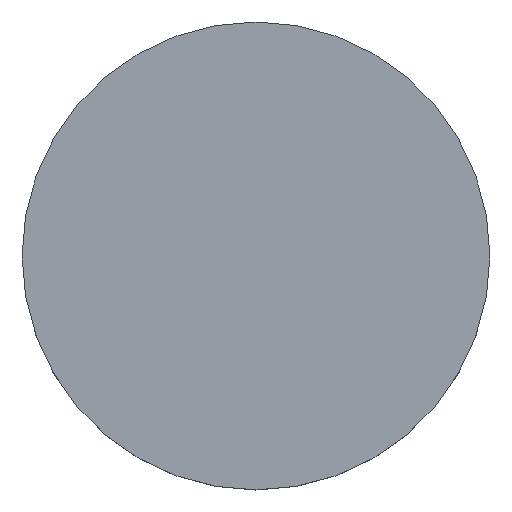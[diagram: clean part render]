
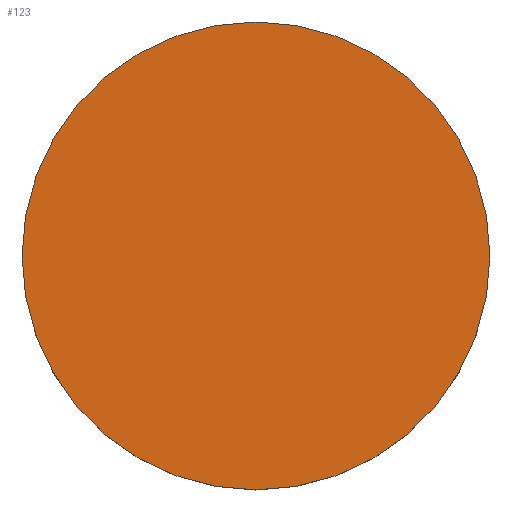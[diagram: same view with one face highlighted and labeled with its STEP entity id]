
A CAD part, top view. The second image highlights one B-rep face of the part: STEP entity #123.
In plain terms, the highlighted planar face has unit normal (0, 0, 1).
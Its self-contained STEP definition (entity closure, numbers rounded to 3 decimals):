
#39 = EDGE_CURVE('',#40,#40,#42,.T.);
#40 = VERTEX_POINT('',#41);
#41 = CARTESIAN_POINT('',(33.5,23.,0.6));
#42 = SURFACE_CURVE('',#43,(#48,#60),.PCURVE_S1.);
#43 = CIRCLE('',#44,4.5);
#44 = AXIS2_PLACEMENT_3D('',#45,#46,#47);
#45 = CARTESIAN_POINT('',(29.,23.,0.6));
#46 = DIRECTION('',(0.,0.,1.));
#47 = DIRECTION('',(1.,0.,-0.));
#48 = PCURVE('',#49,#54);
#49 = CYLINDRICAL_SURFACE('',#50,4.5);
#50 = AXIS2_PLACEMENT_3D('',#51,#52,#53);
#51 = CARTESIAN_POINT('',(29.,23.,-0.7));
#52 = DIRECTION('',(0.,0.,1.));
#53 = DIRECTION('',(1.,0.,-0.));
#54 = DEFINITIONAL_REPRESENTATION('',(#55),#59);
#55 = LINE('',#56,#57);
#56 = CARTESIAN_POINT('',(0.,1.3));
#57 = VECTOR('',#58,1.);
#58 = DIRECTION('',(1.,0.));
#59 = ( GEOMETRIC_REPRESENTATION_CONTEXT(2) 
PARAMETRIC_REPRESENTATION_CONTEXT() REPRESENTATION_CONTEXT('2D SPACE',''
  ) );
#60 = PCURVE('',#61,#66);
#61 = PLANE('',#62);
#62 = AXIS2_PLACEMENT_3D('',#63,#64,#65);
#63 = CARTESIAN_POINT('',(29.,23.,0.6));
#64 = DIRECTION('',(0.,0.,1.));
#65 = DIRECTION('',(1.,0.,-0.));
#66 = DEFINITIONAL_REPRESENTATION('',(#67),#71);
#67 = CIRCLE('',#68,4.5);
#68 = AXIS2_PLACEMENT_2D('',#69,#70);
#69 = CARTESIAN_POINT('',(0.,0.));
#70 = DIRECTION('',(1.,0.));
#71 = ( GEOMETRIC_REPRESENTATION_CONTEXT(2) 
PARAMETRIC_REPRESENTATION_CONTEXT() REPRESENTATION_CONTEXT('2D SPACE',''
  ) );
#123 = ADVANCED_FACE('',(#124),#61,.T.);
#124 = FACE_BOUND('',#125,.T.);
#125 = EDGE_LOOP('',(#126));
#126 = ORIENTED_EDGE('',*,*,#39,.T.);
